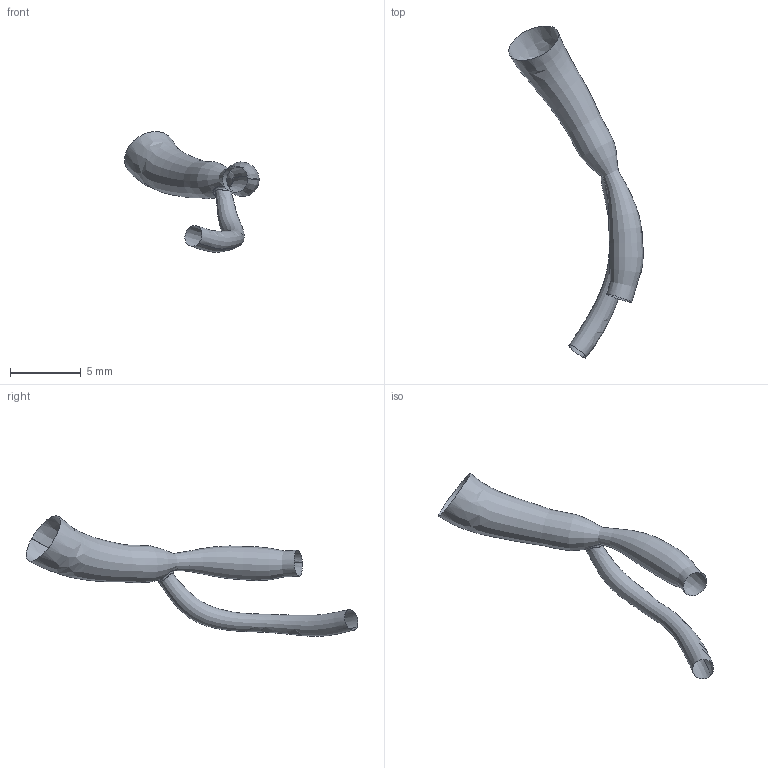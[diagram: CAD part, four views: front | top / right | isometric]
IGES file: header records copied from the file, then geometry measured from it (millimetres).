
Global section: file name: C:\Documents and Settings\Administrator\Desktop\FDA Bifurcation win\RawData_for_IGES\HRCA_Data\20001205.093751\IGES\20001205.093751.RM2.BIFUR.ES.igs; native system: Rhinoceros ( May 19 2006 ); preprocessor: Trout Lake IGES 012 May 19 2006; date: 100728.204032; units: centimetre
Bounding box: 9.48 x 23.38 x 8.5 mm (x, y, z)
Surface area: 221.1 mm2 (no closed solid volume)
Topology: 0 solids, 0 shells, 3 faces, 39 edges, 34 vertices
Faces by surface type: bspline 3
